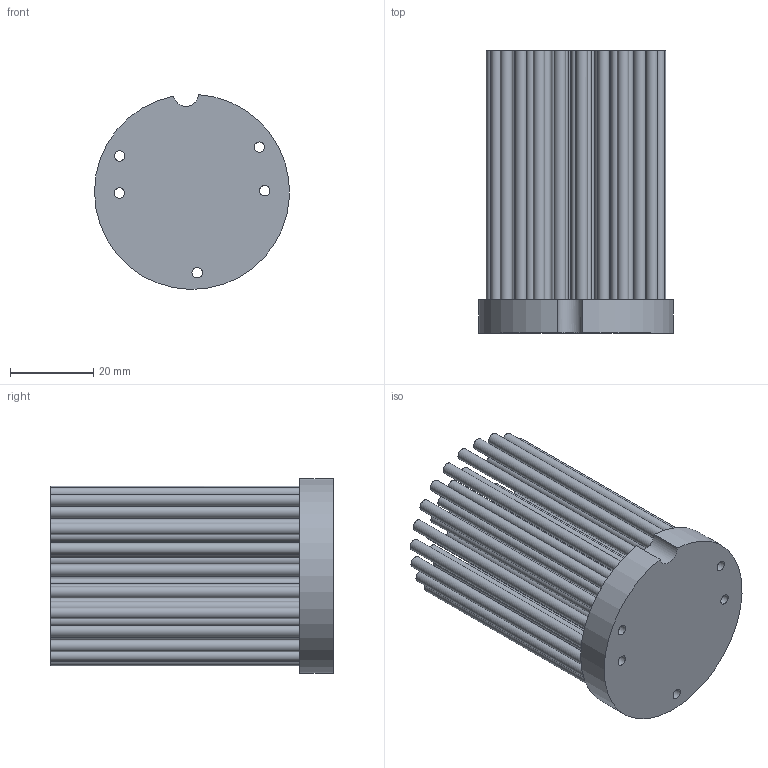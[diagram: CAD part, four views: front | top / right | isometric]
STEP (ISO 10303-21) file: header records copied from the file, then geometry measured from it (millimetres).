
FILE_DESCRIPTION (( 'STEP AP203' ), '1' );
FILE_NAME ('XSA-217.STEP', '2014-04-09T02:25:08', ( '' ), ( '' ), 'SwSTEP 2.0', 'SolidWorks 2013', '' );
FILE_SCHEMA (( 'CONFIG_CONTROL_DESIGN' ));
Length unit declared in the file: millimetre
Products named in the file (1): XSA-217
Bounding box: 46.98 x 68 x 46.95 mm (x, y, z)
Volume: 31281.9 mm3; surface area: 31716.7 mm2
Topology: 1 solids, 1 shells, 117 faces, 193 edges, 130 vertices
Faces by surface type: cylinder 61, plane 56
Full cylindrical faces by diameter (mm): 2.5 x35, 2.8 x24
Entity records: 2523 total; most frequent: DIRECTION 486, CARTESIAN_POINT 371, ORIENTED_EDGE 254, AXIS2_PLACEMENT_3D 242, EDGE_LOOP 238, FACE_OUTER_BOUND 176, EDGE_CURVE 127, CIRCLE 124
